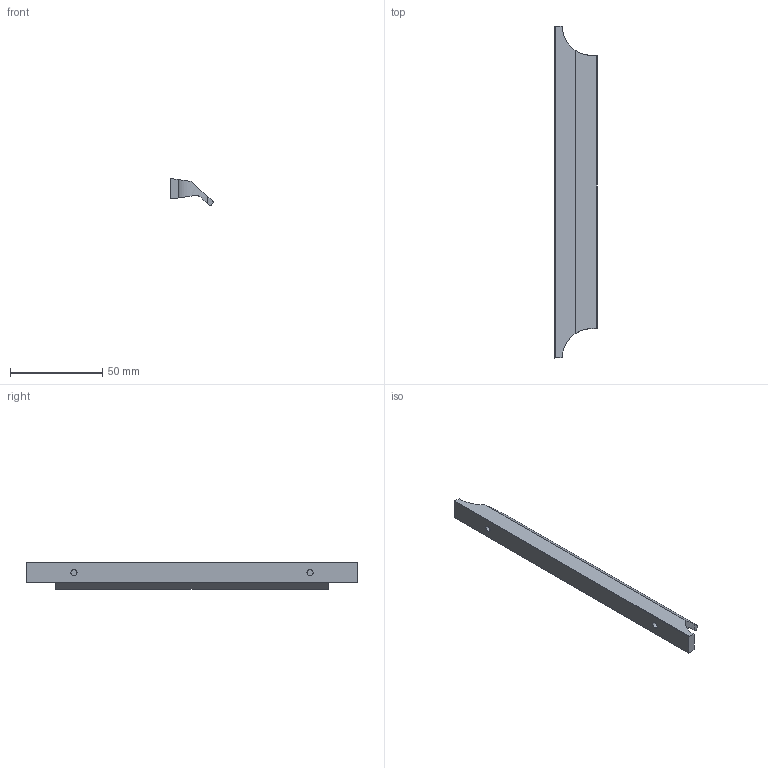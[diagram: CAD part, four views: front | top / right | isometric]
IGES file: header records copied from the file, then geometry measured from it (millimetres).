
Start section: C
Global section: file name: 8329.igs; native system: By Siemens PLM Incorporated; preprocessor: XPlus GENERIC/IGES 16.0.42; author: Author; organization: Title; date: 20220504.133417; units: millimetre
Bounding box: 23 x 180 x 14.54 mm (x, y, z)
Surface area: 10974.1 mm2 (no closed solid volume)
Topology: 0 solids, 0 shells, 22 faces, 116 edges, 116 vertices
Faces by surface type: bspline 22
